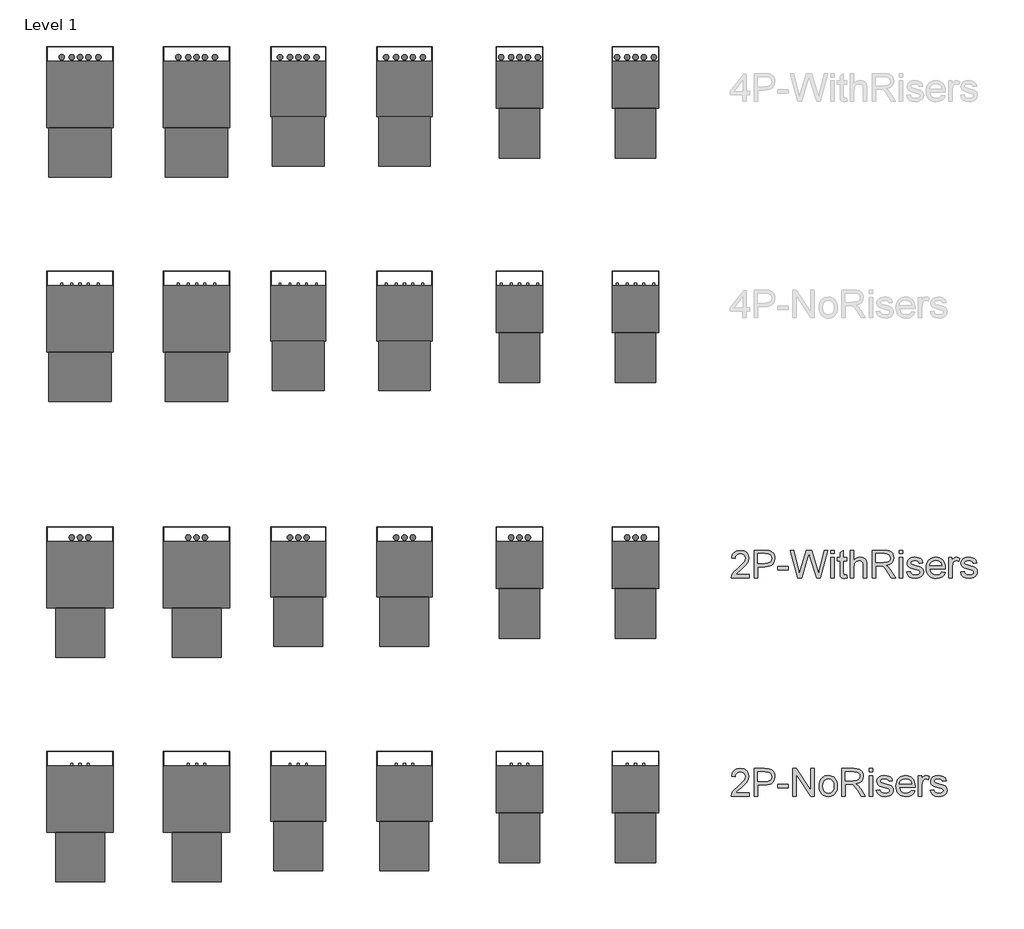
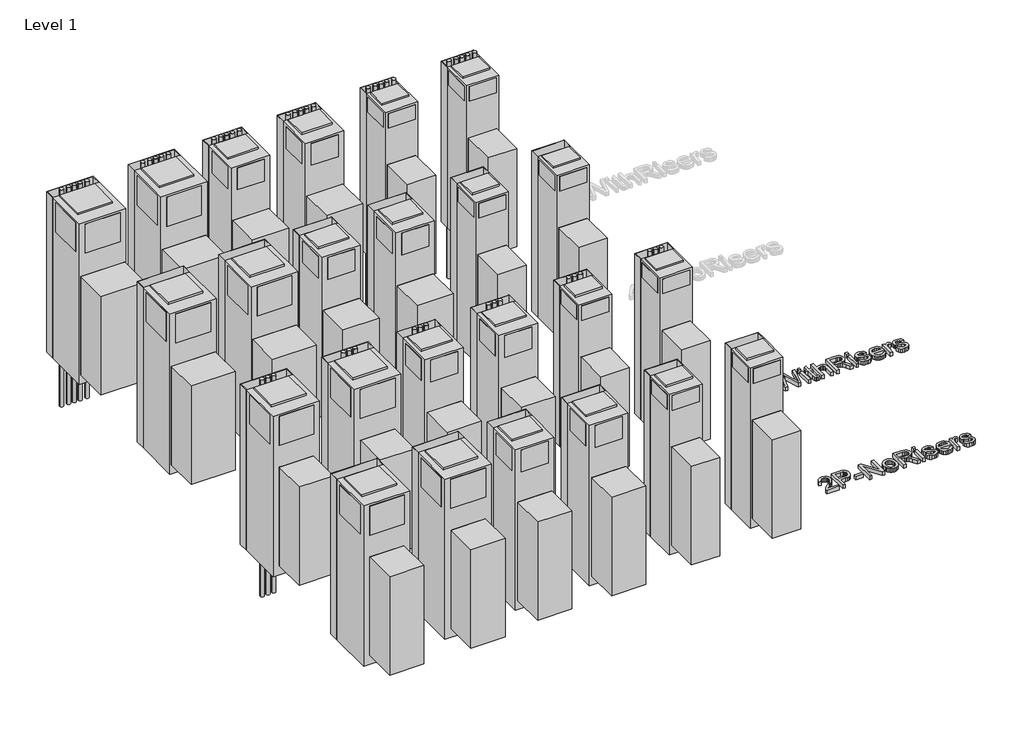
# One storey, part 1 of 2: 26 proxies.
"""IFC4 building model written with IfcOpenShell, lengths in millimetres."""

from ifc_helpers import new_model, si_unit, origin, origin_with_axes, place, context, project, spatial, polyline, outline, extrude, transform, mapped, element, save
from components import mechanical_equipment_0a6d9aea, mechanical_equipment_737f0095, mechanical_equipment_a232e287, mechanical_equipment_c9fd5dd9, mechanical_equipment_90048839, mechanical_equipment_c5b8748d, mechanical_equipment_c428dfaa, mechanical_equipment_3314fadd, mechanical_equipment_59581eee, mechanical_equipment_78186132, mechanical_equipment_7b8174d6, mechanical_equipment_072f10d4

model = new_model("IFC4")

# Units and contexts
model_context = context("Model", 3, world=origin())
ifc_project = project(units=[si_unit("LENGTHUNIT", "METRE", prefix="MILLI")], contexts=[model_context])

# Site, building, storey
site = spatial("IfcSite", under=ifc_project)
building = spatial("IfcBuilding", under=site)
storey = spatial("IfcBuildingStorey", under=building, Name="Level 1", Elevation=0.0)

# Proxies
placement = place(None, origin())
mechanical_equipment_shape = mechanical_equipment_0a6d9aea(model_context)
element("IfcBuildingElementProxy", 1, Name="Exposed_Modular_Fan_Coil_Unit_-_42SHA_-_CARRIER_-_2-Pipe_Cool-EHeat_-_NoRisers_2022 : Size 03 - 277v/60Hz/1Ph - 4 Row 3.0kW", ObjectType="Exposed_Modular_Fan_Coil_Unit_-_42SHA_-_CARRIER_-_2-Pipe_Cool-EHeat_-_NoRisers_2022 : Size 03 - 277v/60Hz/1Ph - 4 Row 3.0kW", at=placement, inside=storey, context=model_context, shape_type="MappedRepresentation", body=[
    mapped(mechanical_equipment_shape, transform((-16233.2031689, -4417.7817828, 0.0), x_axis=(1.0, 0.0, 0.0), y_axis=(0.0, 1.0, 0.0), z_axis=(0.0, 0.0, 1.0))),
])
element("IfcBuildingElementProxy", 2, Name="Exposed_Modular_Fan_Coil_Unit_-_42SHA_-_CARRIER_-_2-Pipe_Cool-EHeat_-_NoRisers_2022 : Size 04 - 277v/60Hz/1Ph - 4 Row 4.0kW", ObjectType="Exposed_Modular_Fan_Coil_Unit_-_42SHA_-_CARRIER_-_2-Pipe_Cool-EHeat_-_NoRisers_2022 : Size 04 - 277v/60Hz/1Ph - 4 Row 4.0kW", at=placement, inside=storey, context=model_context, shape_type="MappedRepresentation", body=[
    mapped(mechanical_equipment_shape, transform((-17299.7341351, -4417.7817828, 0.0), x_axis=(1.0, 0.0, 0.0), y_axis=(0.0, 1.0, 0.0), z_axis=(0.0, 0.0, 1.0))),
])
mechanical_equipment_2_shape = mechanical_equipment_737f0095(model_context)
element("IfcBuildingElementProxy", 3, Name="Exposed_Modular_Fan_Coil_Unit_-_42SHA_-_CARRIER_-_2-Pipe_Cool-EHeat_-_NoRisers_2022 : Size 06 - 277v/60Hz/1Ph - 4 Row 6.0kW", ObjectType="Exposed_Modular_Fan_Coil_Unit_-_42SHA_-_CARRIER_-_2-Pipe_Cool-EHeat_-_NoRisers_2022 : Size 06 - 277v/60Hz/1Ph - 4 Row 6.0kW", at=placement, inside=storey, context=model_context, shape_type="MappedRepresentation", body=[
    mapped(mechanical_equipment_2_shape, transform((-18395.6995373, -4417.7817828, 0.0), x_axis=(1.0, 0.0, 0.0), y_axis=(0.0, 1.0, 0.0), z_axis=(0.0, 0.0, 1.0))),
])
element("IfcBuildingElementProxy", 4, Name="Exposed_Modular_Fan_Coil_Unit_-_42SHA_-_CARRIER_-_2-Pipe_Cool-EHeat_-_NoRisers_2022 : Size 08 - 277v/60Hz/1Ph - 4 Row 8.0kW", ObjectType="Exposed_Modular_Fan_Coil_Unit_-_42SHA_-_CARRIER_-_2-Pipe_Cool-EHeat_-_NoRisers_2022 : Size 08 - 277v/60Hz/1Ph - 4 Row 8.0kW", at=placement, inside=storey, context=model_context, shape_type="MappedRepresentation", body=[
    mapped(mechanical_equipment_2_shape, transform((-19372.1906777, -4417.7817828, 0.0), x_axis=(1.0, 0.0, 0.0), y_axis=(0.0, 1.0, 0.0), z_axis=(0.0, 0.0, 1.0))),
])
mechanical_equipment_3_shape = mechanical_equipment_a232e287(model_context)
element("IfcBuildingElementProxy", 5, Name="Exposed_Modular_Fan_Coil_Unit_-_42SHA_-_CARRIER_-_2-Pipe_Cool-EHeat_-_NoRisers_2022 : Size 10 - 277v/60Hz/1Ph - 4 Row 8.0kW", ObjectType="Exposed_Modular_Fan_Coil_Unit_-_42SHA_-_CARRIER_-_2-Pipe_Cool-EHeat_-_NoRisers_2022 : Size 10 - 277v/60Hz/1Ph - 4 Row 8.0kW", at=placement, inside=storey, context=model_context, shape_type="MappedRepresentation", body=[
    mapped(mechanical_equipment_3_shape, transform((-20358.7946873, -4417.7817828, 0.0), x_axis=(1.0, 0.0, 0.0), y_axis=(0.0, 1.0, 0.0), z_axis=(0.0, 0.0, 1.0))),
])
element("IfcBuildingElementProxy", 6, Name="Exposed_Modular_Fan_Coil_Unit_-_42SHA_-_CARRIER_-_2-Pipe_Cool-EHeat_-_NoRisers_2022 : Size 12 - 277v/60Hz/1Ph - 4 Row 8.0kW", ObjectType="Exposed_Modular_Fan_Coil_Unit_-_42SHA_-_CARRIER_-_2-Pipe_Cool-EHeat_-_NoRisers_2022 : Size 12 - 277v/60Hz/1Ph - 4 Row 8.0kW", at=placement, inside=storey, context=model_context, shape_type="MappedRepresentation", body=[
    mapped(mechanical_equipment_3_shape, transform((-21430.2224664, -4417.7817828, 0.0), x_axis=(1.0, 0.0, 0.0), y_axis=(0.0, 1.0, 0.0), z_axis=(0.0, 0.0, 1.0))),
])
mechanical_equipment_4_shape = mechanical_equipment_c9fd5dd9(model_context)
element("IfcBuildingElementProxy", 7, Name="Exposed_Modular_Fan_Coil_Unit_-_42SHA_-_CARRIER_-_4-Pipe_-_NoRisers_2022 : Size 03 - 277v/60Hz/1Ph - 4/1 Coil", ObjectType="Exposed_Modular_Fan_Coil_Unit_-_42SHA_-_CARRIER_-_4-Pipe_-_NoRisers_2022 : Size 03 - 277v/60Hz/1Ph - 4/1 Coil", at=placement, inside=storey, context=model_context, shape_type="MappedRepresentation", body=[
    mapped(mechanical_equipment_4_shape, transform((-16233.2031689, 1.8182172, 0.0), x_axis=(1.0, 0.0, 0.0), y_axis=(0.0, 1.0, 0.0), z_axis=(0.0, 0.0, 1.0))),
])
element("IfcBuildingElementProxy", 8, Name="Exposed_Modular_Fan_Coil_Unit_-_42SHA_-_CARRIER_-_4-Pipe_-_NoRisers_2022 : Size 04 - 277v/60Hz/1Ph - 4/1 Coil", ObjectType="Exposed_Modular_Fan_Coil_Unit_-_42SHA_-_CARRIER_-_4-Pipe_-_NoRisers_2022 : Size 04 - 277v/60Hz/1Ph - 4/1 Coil", at=placement, inside=storey, context=model_context, shape_type="MappedRepresentation", body=[
    mapped(mechanical_equipment_4_shape, transform((-17299.7341351, 1.8182172, 0.0), x_axis=(1.0, 0.0, 0.0), y_axis=(0.0, 1.0, 0.0), z_axis=(0.0, 0.0, 1.0))),
])
mechanical_equipment_5_shape = mechanical_equipment_90048839(model_context)
element("IfcBuildingElementProxy", 9, Name="Exposed_Modular_Fan_Coil_Unit_-_42SHA_-_CARRIER_-_4-Pipe_-_NoRisers_2022 : Size 06 - 277v/60Hz/1Ph - 4/1 Coil", ObjectType="Exposed_Modular_Fan_Coil_Unit_-_42SHA_-_CARRIER_-_4-Pipe_-_NoRisers_2022 : Size 06 - 277v/60Hz/1Ph - 4/1 Coil", at=placement, inside=storey, context=model_context, shape_type="MappedRepresentation", body=[
    mapped(mechanical_equipment_5_shape, transform((-18395.6995373, 1.8182172, 0.0), x_axis=(1.0, 0.0, 0.0), y_axis=(0.0, 1.0, 0.0), z_axis=(0.0, 0.0, 1.0))),
])
element("IfcBuildingElementProxy", 10, Name="Exposed_Modular_Fan_Coil_Unit_-_42SHA_-_CARRIER_-_4-Pipe_-_NoRisers_2022 : Size 08 - 277v/60Hz/1Ph - 4/1 Coil", ObjectType="Exposed_Modular_Fan_Coil_Unit_-_42SHA_-_CARRIER_-_4-Pipe_-_NoRisers_2022 : Size 08 - 277v/60Hz/1Ph - 4/1 Coil", at=placement, inside=storey, context=model_context, shape_type="MappedRepresentation", body=[
    mapped(mechanical_equipment_5_shape, transform((-19372.1906777, 1.8182172, 0.0), x_axis=(1.0, 0.0, 0.0), y_axis=(0.0, 1.0, 0.0), z_axis=(0.0, 0.0, 1.0))),
])
mechanical_equipment_6_shape = mechanical_equipment_c5b8748d(model_context)
element("IfcBuildingElementProxy", 11, Name="Exposed_Modular_Fan_Coil_Unit_-_42SHA_-_CARRIER_-_4-Pipe_-_NoRisers_2022 : Size 10 - 277v/60Hz/1Ph - 4/1 Coil", ObjectType="Exposed_Modular_Fan_Coil_Unit_-_42SHA_-_CARRIER_-_4-Pipe_-_NoRisers_2022 : Size 10 - 277v/60Hz/1Ph - 4/1 Coil", at=placement, inside=storey, context=model_context, shape_type="MappedRepresentation", body=[
    mapped(mechanical_equipment_6_shape, transform((-20358.7946873, 1.8182172, 0.0), x_axis=(1.0, 0.0, 0.0), y_axis=(0.0, 1.0, 0.0), z_axis=(0.0, 0.0, 1.0))),
])
element("IfcBuildingElementProxy", 12, Name="Exposed_Modular_Fan_Coil_Unit_-_42SHA_-_CARRIER_-_4-Pipe_-_NoRisers_2022 : Size 12 - 277v/60Hz/1Ph - 4/1 Coil", ObjectType="Exposed_Modular_Fan_Coil_Unit_-_42SHA_-_CARRIER_-_4-Pipe_-_NoRisers_2022 : Size 12 - 277v/60Hz/1Ph - 4/1 Coil", at=placement, inside=storey, context=model_context, shape_type="MappedRepresentation", body=[
    mapped(mechanical_equipment_6_shape, transform((-21430.2224664, 1.8182172, 0.0), x_axis=(1.0, 0.0, 0.0), y_axis=(0.0, 1.0, 0.0), z_axis=(0.0, 0.0, 1.0))),
])
mechanical_equipment_7_shape = mechanical_equipment_c428dfaa(model_context)
element("IfcBuildingElementProxy", 13, Name="Exposed_Modular_Fan_Coil_Unit_-_42SHA_-_CARRIER_-_2-Pipe_Cool-EHeat_-_WithRisers_2022 : Size 03 - 277v/60Hz/1Ph - 4 Row 3.0kW", ObjectType="Exposed_Modular_Fan_Coil_Unit_-_42SHA_-_CARRIER_-_2-Pipe_Cool-EHeat_-_WithRisers_2022 : Size 03 - 277v/60Hz/1Ph - 4 Row 3.0kW", at=placement, inside=storey, context=model_context, shape_type="MappedRepresentation", body=[
    mapped(mechanical_equipment_7_shape, transform((-16233.2031689, -2353.1983169, 0.0), x_axis=(1.0, 0.0, 0.0), y_axis=(0.0, 1.0, 0.0), z_axis=(0.0, 0.0, 1.0))),
])
element("IfcBuildingElementProxy", 14, Name="Exposed_Modular_Fan_Coil_Unit_-_42SHA_-_CARRIER_-_2-Pipe_Cool-EHeat_-_WithRisers_2022 : Size 04 - 277v/60Hz/1Ph - 4 Row 4.0kW", ObjectType="Exposed_Modular_Fan_Coil_Unit_-_42SHA_-_CARRIER_-_2-Pipe_Cool-EHeat_-_WithRisers_2022 : Size 04 - 277v/60Hz/1Ph - 4 Row 4.0kW", at=placement, inside=storey, context=model_context, shape_type="MappedRepresentation", body=[
    mapped(mechanical_equipment_7_shape, transform((-17299.7341351, -2353.1983169, 0.0), x_axis=(1.0, 0.0, 0.0), y_axis=(0.0, 1.0, 0.0), z_axis=(0.0, 0.0, 1.0))),
])
mechanical_equipment_8_shape = mechanical_equipment_3314fadd(model_context)
element("IfcBuildingElementProxy", 15, Name="Exposed_Modular_Fan_Coil_Unit_-_42SHA_-_CARRIER_-_2-Pipe_Cool-EHeat_-_WithRisers_2022 : Size 06 - 277v/60Hz/1Ph - 4 Row 6.0kW", ObjectType="Exposed_Modular_Fan_Coil_Unit_-_42SHA_-_CARRIER_-_2-Pipe_Cool-EHeat_-_WithRisers_2022 : Size 06 - 277v/60Hz/1Ph - 4 Row 6.0kW", at=placement, inside=storey, context=model_context, shape_type="MappedRepresentation", body=[
    mapped(mechanical_equipment_8_shape, transform((-18395.6995373, -2353.1983169, 0.0), x_axis=(1.0, 0.0, 0.0), y_axis=(0.0, 1.0, 0.0), z_axis=(0.0, 0.0, 1.0))),
])
element("IfcBuildingElementProxy", 16, Name="Exposed_Modular_Fan_Coil_Unit_-_42SHA_-_CARRIER_-_2-Pipe_Cool-EHeat_-_WithRisers_2022 : Size 08 - 277v/60Hz/1Ph - 4 Row 8.0kW", ObjectType="Exposed_Modular_Fan_Coil_Unit_-_42SHA_-_CARRIER_-_2-Pipe_Cool-EHeat_-_WithRisers_2022 : Size 08 - 277v/60Hz/1Ph - 4 Row 8.0kW", at=placement, inside=storey, context=model_context, shape_type="MappedRepresentation", body=[
    mapped(mechanical_equipment_8_shape, transform((-19372.1906777, -2353.1983169, 0.0), x_axis=(1.0, 0.0, 0.0), y_axis=(0.0, 1.0, 0.0), z_axis=(0.0, 0.0, 1.0))),
])
mechanical_equipment_9_shape = mechanical_equipment_59581eee(model_context)
element("IfcBuildingElementProxy", 17, Name="Exposed_Modular_Fan_Coil_Unit_-_42SHA_-_CARRIER_-_2-Pipe_Cool-EHeat_-_WithRisers_2022 : Size 10 - 277v/60Hz/1Ph - 4 Row 8.0kW", ObjectType="Exposed_Modular_Fan_Coil_Unit_-_42SHA_-_CARRIER_-_2-Pipe_Cool-EHeat_-_WithRisers_2022 : Size 10 - 277v/60Hz/1Ph - 4 Row 8.0kW", at=placement, inside=storey, context=model_context, shape_type="MappedRepresentation", body=[
    mapped(mechanical_equipment_9_shape, transform((-20358.7946873, -2353.1983169, 0.0), x_axis=(1.0, 0.0, 0.0), y_axis=(0.0, 1.0, 0.0), z_axis=(0.0, 0.0, 1.0))),
])
element("IfcBuildingElementProxy", 18, Name="Exposed_Modular_Fan_Coil_Unit_-_42SHA_-_CARRIER_-_2-Pipe_Cool-EHeat_-_WithRisers_2022 : Size 12 - 277v/60Hz/1Ph - 4 Row 8.0kW", ObjectType="Exposed_Modular_Fan_Coil_Unit_-_42SHA_-_CARRIER_-_2-Pipe_Cool-EHeat_-_WithRisers_2022 : Size 12 - 277v/60Hz/1Ph - 4 Row 8.0kW", at=placement, inside=storey, context=model_context, shape_type="MappedRepresentation", body=[
    mapped(mechanical_equipment_9_shape, transform((-21430.2224664, -2353.1983169, 0.0), x_axis=(1.0, 0.0, 0.0), y_axis=(0.0, 1.0, 0.0), z_axis=(0.0, 0.0, 1.0))),
])
mechanical_equipment_10_shape = mechanical_equipment_78186132(model_context)
element("IfcBuildingElementProxy", 19, Name="Exposed_Modular_Fan_Coil_Unit_-_42SHA_-_CARRIER_-_4-Pipe_-_WithRisers_2022 : Size 03 - 277v/60Hz/1Ph - 4/1 Coil", ObjectType="Exposed_Modular_Fan_Coil_Unit_-_42SHA_-_CARRIER_-_4-Pipe_-_WithRisers_2022 : Size 03 - 277v/60Hz/1Ph - 4/1 Coil", at=placement, inside=storey, context=model_context, shape_type="MappedRepresentation", body=[
    mapped(mechanical_equipment_10_shape, transform((-16233.2031689, 2066.4016831, 0.0), x_axis=(1.0, 0.0, 0.0), y_axis=(0.0, 1.0, 0.0), z_axis=(0.0, 0.0, 1.0))),
])
element("IfcBuildingElementProxy", 20, Name="Exposed_Modular_Fan_Coil_Unit_-_42SHA_-_CARRIER_-_4-Pipe_-_WithRisers_2022 : Size 04 - 277v/60Hz/1Ph - 4/1 Coil", ObjectType="Exposed_Modular_Fan_Coil_Unit_-_42SHA_-_CARRIER_-_4-Pipe_-_WithRisers_2022 : Size 04 - 277v/60Hz/1Ph - 4/1 Coil", at=placement, inside=storey, context=model_context, shape_type="MappedRepresentation", body=[
    mapped(mechanical_equipment_10_shape, transform((-17299.7341351, 2066.4016831, 0.0), x_axis=(1.0, 0.0, 0.0), y_axis=(0.0, 1.0, 0.0), z_axis=(0.0, 0.0, 1.0))),
])
mechanical_equipment_11_shape = mechanical_equipment_7b8174d6(model_context)
element("IfcBuildingElementProxy", 21, Name="Exposed_Modular_Fan_Coil_Unit_-_42SHA_-_CARRIER_-_4-Pipe_-_WithRisers_2022 : Size 06 - 277v/60Hz/1Ph - 4/1 Coil", ObjectType="Exposed_Modular_Fan_Coil_Unit_-_42SHA_-_CARRIER_-_4-Pipe_-_WithRisers_2022 : Size 06 - 277v/60Hz/1Ph - 4/1 Coil", at=placement, inside=storey, context=model_context, shape_type="MappedRepresentation", body=[
    mapped(mechanical_equipment_11_shape, transform((-18395.6995373, 2066.4016831, 0.0), x_axis=(1.0, 0.0, 0.0), y_axis=(0.0, 1.0, 0.0), z_axis=(0.0, 0.0, 1.0))),
])
element("IfcBuildingElementProxy", 22, Name="Exposed_Modular_Fan_Coil_Unit_-_42SHA_-_CARRIER_-_4-Pipe_-_WithRisers_2022 : Size 08 - 277v/60Hz/1Ph - 4/1 Coil", ObjectType="Exposed_Modular_Fan_Coil_Unit_-_42SHA_-_CARRIER_-_4-Pipe_-_WithRisers_2022 : Size 08 - 277v/60Hz/1Ph - 4/1 Coil", at=placement, inside=storey, context=model_context, shape_type="MappedRepresentation", body=[
    mapped(mechanical_equipment_11_shape, transform((-19372.1906777, 2066.4016831, 0.0), x_axis=(1.0, 0.0, 0.0), y_axis=(0.0, 1.0, 0.0), z_axis=(0.0, 0.0, 1.0))),
])
mechanical_equipment_12_shape = mechanical_equipment_072f10d4(model_context)
element("IfcBuildingElementProxy", 23, Name="Exposed_Modular_Fan_Coil_Unit_-_42SHA_-_CARRIER_-_4-Pipe_-_WithRisers_2022 : Size 10 - 277v/60Hz/1Ph - 4/1 Coil", ObjectType="Exposed_Modular_Fan_Coil_Unit_-_42SHA_-_CARRIER_-_4-Pipe_-_WithRisers_2022 : Size 10 - 277v/60Hz/1Ph - 4/1 Coil", at=placement, inside=storey, context=model_context, shape_type="MappedRepresentation", body=[
    mapped(mechanical_equipment_12_shape, transform((-20358.7946873, 2066.4016831, 0.0), x_axis=(1.0, 0.0, 0.0), y_axis=(0.0, 1.0, 0.0), z_axis=(0.0, 0.0, 1.0))),
])
element("IfcBuildingElementProxy", 24, Name="Exposed_Modular_Fan_Coil_Unit_-_42SHA_-_CARRIER_-_4-Pipe_-_WithRisers_2022 : Size 12 - 277v/60Hz/1Ph - 4/1 Coil", ObjectType="Exposed_Modular_Fan_Coil_Unit_-_42SHA_-_CARRIER_-_4-Pipe_-_WithRisers_2022 : Size 12 - 277v/60Hz/1Ph - 4/1 Coil", at=placement, inside=storey, context=model_context, shape_type="MappedRepresentation", body=[
    mapped(mechanical_equipment_12_shape, transform((-21430.2224664, 2066.4016831, 0.0), x_axis=(1.0, 0.0, 0.0), y_axis=(0.0, 1.0, 0.0), z_axis=(0.0, 0.0, 1.0))),
])
element("IfcBuildingElementProxy", 25, Name="24\" Arial", ObjectType="24\" Arial", at=placement, inside=storey, context=model_context, shape_type="SweptSolid", body=[
    extrude(outline(polyline([(-14817.2694928, -4418.7667222), (-14817.2694928, -4450.6616007), (-14984.7176048, -4450.6616007), (-14981.2913971, -4428.671577), (-14973.4266932, -4411.4860309), (-14961.9177502, -4394.814416), (-14921.9868575, -4357.8425207), (-14887.5690443, -4327.2714043), (-14866.9183563, -4304.7051549), (-14856.5930124, -4286.3905176), (-14853.1512311, -4268.5742378), (-14856.3983415, -4252.6034381), (-14866.1396728, -4239.3268835), (-14881.1137576, -4230.3798094), (-14900.0591285, -4227.3974514), (-14919.9544934, -4230.3097279), (-14935.411362, -4239.0465574), (-14945.3862983, -4252.9226983), (-14948.8358665, -4271.2529093), (-14980.730745, -4267.2660495), (-14972.9984172, -4236.414607), (-14956.2800813, -4213.8795048), (-14931.4478627, -4200.0968059), (-14899.373887, -4195.5025729), (-14867.0663062, -4200.610737), (-14842.2808086, -4215.9352294), (-14826.5124666, -4238.828526), (-14821.2563526, -4266.6431026), (-14826.9251689, -4296.8871719), (-14845.7693109, -4328.1591036), (-14891.462462, -4371.8588248), (-14928.1540312, -4402.5389569), (-14942.5441033, -4418.7667222), (-14817.2694928, -4418.7667222)])), origin_with_axes(), (0.0, 0.0, 1.0), 50.8),
    extrude(outline(polyline([(-14773.4140349, -4450.6616007), (-14773.4140349, -4195.5025729), (-14678.8507038, -4195.5025729), (-14640.7263569, -4197.9320656), (-14623.7276948, -4202.4717907), (-14609.7347513, -4209.8614977), (-14598.4672003, -4220.4360204), (-14589.6447156, -4234.5301927), (-14583.9447519, -4251.1550867), (-14582.044764, -4269.321774), (-14587.1762887, -4299.394533), (-14602.5708626, -4324.4525698), (-14614.89937, -4334.3184905), (-14631.3587937, -4341.3655767), (-14651.9491336, -4345.5938284), (-14676.6703898, -4347.0032456), (-14741.5191564, -4347.0032456), (-14741.5191564, -4450.6616007), (-14773.4140349, -4450.6616007)]), holes=[polyline([(-14741.5191564, -4315.1083672), (-14674.8015493, -4315.1083672), (-14646.5197625, -4312.180517), (-14627.8313572, -4303.3969665), (-14617.4125712, -4289.3027941), (-14613.9396425, -4270.4430784), (-14615.9875803, -4256.1153009), (-14622.1313935, -4244.0301321), (-14631.6079724, -4234.9351082), (-14643.654207, -4229.5777653), (-14675.5490855, -4227.3974514), (-14741.5191564, -4227.3974514), (-14741.5191564, -4315.1083672)])]), origin_with_axes(), (0.0, 0.0, 1.0), 50.8),
    extrude(outline(polyline([(-14558.1236052, -4374.9112643), (-14558.1236052, -4343.0163858), (-14458.45211, -4343.0163858), (-14458.45211, -4374.9112643), (-14558.1236052, -4374.9112643)])), origin_with_axes(), (0.0, 0.0, 1.0), 50.8),
    extrude(outline(polyline([(-14418.5835119, -4450.6616007), (-14418.5835119, -4195.5025729), (-14384.4460248, -4195.5025729), (-14251.1353999, -4397.6488242), (-14251.1353999, -4195.5025729), (-14219.2405214, -4195.5025729), (-14219.2405214, -4450.6616007), (-14253.3780085, -4450.6616007), (-14386.6886334, -4248.4530547), (-14386.6886334, -4450.6616007), (-14418.5835119, -4450.6616007)])), origin_with_axes(), (0.0, 0.0, 1.0), 50.8),
    extrude(outline(polyline([(-14175.3850635, -4356.9703952), (-14173.6602794, -4332.7027221), (-14168.4859272, -4311.7911752), (-14159.8620068, -4294.2357544), (-14147.7885183, -4280.0364598), (-14122.2165503, -4264.4783623), (-14091.5987128, -4259.2923298), (-14074.0024112, -4260.8711108), (-14058.0919594, -4265.6074535), (-14043.8673575, -4273.501358), (-14031.3286056, -4284.5528244), (-14021.0947569, -4298.3880845), (-14013.7848651, -4314.6333702), (-14009.3989299, -4333.2886815), (-14007.9369515, -4354.3540184), (-14010.522181, -4386.575944), (-14018.2778692, -4411.104476), (-14030.978198, -4429.4736211), (-14048.3973491, -4443.2173859), (-14069.0869712, -4451.7906918), (-14091.5987128, -4454.6484605), (-14109.4519801, -4453.0755197), (-14125.5103817, -4448.3566973), (-14139.7739178, -4440.4919934), (-14152.2425882, -4429.4814079), (-14162.3674212, -4415.5118249), (-14169.5994447, -4398.7701285), (-14173.9386588, -4379.2563185), (-14175.3850635, -4356.9703952)]), holes=[polyline([(-14143.4901851, -4356.9081005), (-14139.799225, -4385.7738999), (-14128.7263448, -4406.3389326), (-14112.0625167, -4418.6499197), (-14091.5987128, -4422.753582), (-14071.228351, -4418.6265592), (-14054.5956702, -4406.2454906), (-14043.5227901, -4385.4079186), (-14039.83183, -4355.9113855), (-14043.5461506, -4327.8865643), (-14054.6891123, -4307.6018577), (-14071.3451535, -4295.2908707), (-14091.5987128, -4291.1872083), (-14112.0625167, -4295.275297), (-14128.7263448, -4307.539563), (-14139.799225, -4328.0578747), (-14143.4901851, -4356.9081005)])]), origin_with_axes(), (0.0, 0.0, 1.0), 50.8),
    extrude(outline(polyline([(-13968.0683535, -4450.6616007), (-13968.0683535, -4195.5025729), (-13858.1182353, -4195.5025729), (-13828.5671943, -4197.2234636), (-13807.0677413, -4202.3861355), (-13791.3539071, -4211.9172223), (-13779.1597227, -4226.7433572), (-13771.3339529, -4245.1280759), (-13768.725363, -4265.3349142), (-13773.0470567, -4290.4708194), (-13786.012138, -4311.3083914), (-13808.0099484, -4326.5861628), (-13839.4298299, -4335.0426662), (-13821.3020767, -4348.6852021), (-13795.4497827, -4381.5145009), (-13752.9025131, -4450.6616007), (-13789.9678504, -4450.6616007), (-13823.1709173, -4397.7734135), (-13847.1543708, -4362.7638008), (-13864.005083, -4346.2245621), (-13879.1738386, -4340.1508303), (-13897.6753599, -4339.029526), (-13936.173475, -4339.029526), (-13936.173475, -4450.6616007), (-13968.0683535, -4450.6616007)]), holes=[polyline([(-13936.173475, -4307.1346475), (-13864.7837665, -4307.1346475), (-13828.3725234, -4302.6182829), (-13816.3963703, -4296.7470089), (-13807.6906882, -4288.1659161), (-13802.3878531, -4277.7860643), (-13800.6202415, -4266.5185132), (-13803.9919413, -4250.9604158), (-13814.1070407, -4238.4236105), (-13831.5106182, -4230.1539912), (-13856.7477522, -4227.3974514), (-13936.173475, -4227.3974514), (-13936.173475, -4307.1346475)])]), origin_with_axes(), (0.0, 0.0, 1.0), 50.8),
    extrude(outline(polyline([(-13716.8961855, -4227.3974514), (-13716.8961855, -4195.5025729), (-13685.001307, -4195.5025729), (-13685.001307, -4227.3974514), (-13716.8961855, -4227.3974514)])), origin_with_axes(), (0.0, 0.0, 1.0), 50.8),
    extrude(outline(polyline([(-13716.8961855, -4450.6616007), (-13716.8961855, -4263.2791896), (-13685.001307, -4263.2791896), (-13685.001307, -4450.6616007), (-13716.8961855, -4450.6616007)])), origin_with_axes(), (0.0, 0.0, 1.0), 50.8),
    extrude(outline(polyline([(-13649.1195687, -4394.8455633), (-13617.2246903, -4390.8587035), (-13612.1943945, -4404.5012394), (-13602.46085, -4414.5306837), (-13587.9617622, -4420.6978574), (-13568.6348363, -4422.753582), (-13549.5415155, -4420.8691678), (-13536.117011, -4415.2159252), (-13528.1744387, -4407.0241742), (-13525.5269146, -4397.5242348), (-13528.1900124, -4389.3947785), (-13536.1793057, -4383.1964573), (-13569.0086044, -4374.1014334), (-13617.0378062, -4358.4966149), (-13629.1930565, -4350.6552715), (-13637.9999675, -4340.2754197), (-13643.3495236, -4328.0189405), (-13645.1327089, -4314.547715), (-13639.4015979, -4290.7822929), (-13623.7656321, -4272.6233923), (-13603.4887123, -4263.1857476), (-13576.0479038, -4259.2923298), (-13555.2882002, -4260.8574838), (-13537.2383153, -4265.5529456), (-13522.7236538, -4272.9192921), (-13512.5696203, -4282.4970998), (-13505.8417943, -4294.9949709), (-13501.6057558, -4311.1215074), (-13533.5006343, -4315.1083672), (-13537.5264283, -4305.0711361), (-13545.492361, -4297.5101188), (-13557.476301, -4292.7679359), (-13573.5561164, -4291.1872083), (-13591.8707537, -4292.6978544), (-13604.0805118, -4297.2297927), (-13610.9485008, -4303.7707346), (-13613.2378304, -4311.3083914), (-13609.4378547, -4320.5902994), (-13597.5395699, -4327.6295988), (-13570.0676141, -4334.4197194), (-13523.2531587, -4349.4327383), (-13510.8876638, -4356.6122007), (-13501.5123138, -4366.4391872), (-13495.6021056, -4378.9448451), (-13493.6320362, -4394.1603218), (-13495.9447263, -4409.8897297), (-13502.8827968, -4424.6847172), (-13514.1814952, -4437.385046), (-13529.5760691, -4446.8304776), (-13548.1710325, -4452.6939648), (-13569.0708991, -4454.6484605), (-13601.23053, -4450.8796321), (-13624.7000524, -4439.5731468), (-13640.3671656, -4420.8535941), (-13649.1195687, -4394.8455633)])), origin_with_axes(), (0.0, 0.0, 1.0), 50.8),
    extrude(outline(polyline([(-13326.5576923, -4394.8455633), (-13295.2857607, -4398.8324232), (-13306.5533117, -4422.3953876), (-13324.5331151, -4440.0092096), (-13348.8202552, -4450.9886478), (-13379.0098167, -4454.6484605), (-13398.8000593, -4453.0696796), (-13416.4333484, -4448.3333368), (-13431.9096841, -4440.4394323), (-13445.2290663, -4429.3879659), (-13455.9398586, -4415.4865177), (-13463.5904246, -4399.0426677), (-13468.1807641, -4380.0564159), (-13469.7108773, -4358.5277623), (-13468.1651905, -4336.2690928), (-13463.5281299, -4316.6501606), (-13455.7996956, -4299.6709657), (-13444.9798876, -4285.331508), (-13431.6955461, -4273.9393675), (-13416.5735114, -4265.8021244), (-13399.6137836, -4260.9197785), (-13380.8163625, -4259.2923298), (-13362.6243679, -4260.9158851), (-13346.1727311, -4265.7865507), (-13331.461452, -4273.9043268), (-13318.4905307, -4285.2692133), (-13307.902381, -4299.5775236), (-13300.339417, -4316.5255712), (-13295.8016385, -4336.1133561), (-13294.2890457, -4358.3408782), (-13294.4759298, -4366.9375447), (-13437.8159988, -4366.9375447), (-13432.2951324, -4390.8119825), (-13419.4702143, -4408.3635099), (-13400.9609061, -4419.156064), (-13378.3868698, -4422.753582), (-13361.4115683, -4421.0871992), (-13347.1149382, -4416.0880508), (-13335.4969795, -4407.4446633), (-13326.5576923, -4394.8455633)]), holes=[polyline([(-13437.8159988, -4335.0426662), (-13326.1839242, -4335.0426662), (-13330.4978311, -4318.1919541), (-13338.9543345, -4306.1379326), (-13357.5492978, -4294.9248894), (-13380.9409519, -4291.1872083), (-13402.4404049, -4294.1695663), (-13420.2177505, -4303.1166404), (-13432.5754585, -4317.0628629), (-13437.8159988, -4335.0426662)])]), origin_with_axes(), (0.0, 0.0, 1.0), 50.8),
    extrude(outline(polyline([(-13262.3941672, -4450.6616007), (-13262.3941672, -4263.2791896), (-13234.4861486, -4263.2791896), (-13234.4861486, -4291.0003243), (-13224.1763783, -4274.9282957), (-13214.6764389, -4265.4595036), (-13205.1453522, -4260.8341233), (-13194.7421399, -4259.2923298), (-13178.8569953, -4261.7529699), (-13162.722672, -4269.13489), (-13173.3750631, -4297.7281502), (-13195.8011495, -4291.1872083), (-13205.3244494, -4292.7601491), (-13213.8354607, -4297.4789714), (-13220.7112365, -4304.9854809), (-13225.32883, -4314.9214831), (-13230.4992888, -4352.1737045), (-13230.4992888, -4450.6616007), (-13262.3941672, -4450.6616007)])), origin_with_axes(), (0.0, 0.0, 1.0), 50.8),
    extrude(outline(polyline([(-13154.7489524, -4394.8455633), (-13122.8540739, -4390.8587035), (-13117.8237782, -4404.5012394), (-13108.0902337, -4414.5306837), (-13093.5911459, -4420.6978574), (-13074.26422, -4422.753582), (-13055.1708992, -4420.8691678), (-13041.7463947, -4415.2159252), (-13033.8038224, -4407.0241742), (-13031.1562983, -4397.5242348), (-13033.8193961, -4389.3947785), (-13041.8086894, -4383.1964573), (-13074.6379881, -4374.1014334), (-13122.6671899, -4358.4966149), (-13134.8224402, -4350.6552715), (-13143.6293512, -4340.2754197), (-13148.9789073, -4328.0189405), (-13150.7620926, -4314.547715), (-13145.0309816, -4290.7822929), (-13129.3950158, -4272.6233923), (-13109.118096, -4263.1857476), (-13081.6772875, -4259.2923298), (-13060.9175839, -4260.8574838), (-13042.867699, -4265.5529456), (-13028.3530375, -4272.9192921), (-13018.1990039, -4282.4970998), (-13011.471178, -4294.9949709), (-13007.2351395, -4311.1215074), (-13039.1300179, -4315.1083672), (-13043.1558119, -4305.0711361), (-13051.1217447, -4297.5101188), (-13063.1056846, -4292.7679359), (-13079.1855001, -4291.1872083), (-13097.5001373, -4292.6978544), (-13109.7098955, -4297.2297927), (-13116.5778845, -4303.7707346), (-13118.8672141, -4311.3083914), (-13115.0672384, -4320.5902994), (-13103.1689536, -4327.6295988), (-13075.6969978, -4334.4197194), (-13028.8825423, -4349.4327383), (-13016.5170475, -4356.6122007), (-13007.1416974, -4366.4391872), (-13001.2314892, -4378.9448451), (-12999.2614199, -4394.1603218), (-13001.57411, -4409.8897297), (-13008.5121805, -4424.6847172), (-13019.8108789, -4437.385046), (-13035.2054528, -4446.8304776), (-13053.8004161, -4452.6939648), (-13074.7002828, -4454.6484605), (-13106.8599137, -4450.8796321), (-13130.3294361, -4439.5731468), (-13145.9965492, -4420.8535941), (-13154.7489524, -4394.8455633)])), origin_with_axes(), (0.0, 0.0, 1.0), 50.8),
])
element("IfcBuildingElementProxy", 26, Name="24\" Arial", ObjectType="24\" Arial", at=placement, inside=storey, context=model_context, shape_type="SweptSolid", body=[
    extrude(outline(polyline([(-14817.2694928, -2410.4022997), (-14817.2694928, -2442.2971782), (-14984.7176048, -2442.2971782), (-14981.2913971, -2420.3071545), (-14973.4266932, -2403.1216084), (-14961.9177502, -2386.4499935), (-14921.9868575, -2349.4780982), (-14887.5690443, -2318.9069818), (-14866.9183563, -2296.3407323), (-14856.5930124, -2278.0260951), (-14853.1512311, -2260.2098153), (-14856.3983415, -2244.2390156), (-14866.1396728, -2230.9624609), (-14881.1137576, -2222.0153869), (-14900.0591285, -2219.0330288), (-14919.9544934, -2221.9453053), (-14935.411362, -2230.6821348), (-14945.3862983, -2244.5582758), (-14948.8358665, -2262.8884867), (-14980.730745, -2258.9016269), (-14972.9984172, -2228.0501844), (-14956.2800813, -2205.5150823), (-14931.4478627, -2191.7323834), (-14899.373887, -2187.1381504), (-14867.0663062, -2192.2463145), (-14842.2808086, -2207.5708069), (-14826.5124666, -2230.4641035), (-14821.2563526, -2258.2786801), (-14826.9251689, -2288.5227494), (-14845.7693109, -2319.794681), (-14891.462462, -2363.4944022), (-14928.1540312, -2394.1745344), (-14942.5441033, -2410.4022997), (-14817.2694928, -2410.4022997)])), origin_with_axes(), (0.0, 0.0, 1.0), 50.8),
    extrude(outline(polyline([(-14773.4140349, -2442.2971782), (-14773.4140349, -2187.1381504), (-14678.8507038, -2187.1381504), (-14640.7263569, -2189.5676431), (-14623.7276948, -2194.1073682), (-14609.7347513, -2201.4970752), (-14598.4672003, -2212.0715978), (-14589.6447156, -2226.1657702), (-14583.9447519, -2242.7906642), (-14582.044764, -2260.9573515), (-14587.1762887, -2291.0301105), (-14602.5708626, -2316.0881473), (-14614.89937, -2325.954068), (-14631.3587937, -2333.0011542), (-14651.9491336, -2337.2294059), (-14676.6703898, -2338.6388231), (-14741.5191564, -2338.6388231), (-14741.5191564, -2442.2971782), (-14773.4140349, -2442.2971782)]), holes=[polyline([(-14741.5191564, -2306.7439446), (-14674.8015493, -2306.7439446), (-14646.5197625, -2303.8160945), (-14627.8313572, -2295.032544), (-14617.4125712, -2280.9383716), (-14613.9396425, -2262.0786558), (-14615.9875803, -2247.7508784), (-14622.1313935, -2235.6657096), (-14631.6079724, -2226.5706857), (-14643.654207, -2221.2133428), (-14675.5490855, -2219.0330288), (-14741.5191564, -2219.0330288), (-14741.5191564, -2306.7439446)])]), origin_with_axes(), (0.0, 0.0, 1.0), 50.8),
    extrude(outline(polyline([(-14558.1236052, -2366.5468418), (-14558.1236052, -2334.6519633), (-14458.45211, -2334.6519633), (-14458.45211, -2366.5468418), (-14558.1236052, -2366.5468418)])), origin_with_axes(), (0.0, 0.0, 1.0), 50.8),
    extrude(outline(polyline([(-14372.9215081, -2442.2971782), (-14442.5046707, -2187.1381504), (-14409.6130773, -2187.1381504), (-14369.2461217, -2354.8354411), (-14356.7871848, -2406.6023239), (-14343.4561223, -2360.8157308), (-14292.8728385, -2187.1381504), (-14245.4665836, -2187.1381504), (-14208.7127197, -2313.0357078), (-14192.9677382, -2359.7567212), (-14181.3653532, -2406.6023239), (-14169.2801844, -2356.3305135), (-14128.5394608, -2187.1381504), (-14095.6478673, -2187.1381504), (-14165.2933246, -2442.2971782), (-14199.3685171, -2442.2971782), (-14260.5418973, -2245.4459751), (-14269.076269, -2217.9740192), (-14278.6696505, -2251.0524967), (-14334.4233931, -2442.2971782), (-14372.9215081, -2442.2971782)])), origin_with_axes(), (0.0, 0.0, 1.0), 50.8),
    extrude(outline(polyline([(-14067.7398487, -2219.0330288), (-14067.7398487, -2187.1381504), (-14035.8449702, -2187.1381504), (-14035.8449702, -2219.0330288), (-14067.7398487, -2219.0330288)])), origin_with_axes(), (0.0, 0.0, 1.0), 50.8),
    extrude(outline(polyline([(-14067.7398487, -2442.2971782), (-14067.7398487, -2254.9147671), (-14035.8449702, -2254.9147671), (-14035.8449702, -2442.2971782), (-14067.7398487, -2442.2971782)])), origin_with_axes(), (0.0, 0.0, 1.0), 50.8),
    extrude(outline(polyline([(-13920.2260357, -2415.6973479), (-13916.2391759, -2443.2315984), (-13940.0980401, -2446.284038), (-13955.4069588, -2444.9602759), (-13966.8224598, -2440.9889898), (-13980.1535222, -2427.0972751), (-13984.0157927, -2390.9040634), (-13984.0157927, -2286.8096456), (-14007.9369515, -2286.8096456), (-14007.9369515, -2254.9147671), (-13984.0157927, -2254.9147671), (-13984.0157927, -2209.3773527), (-13952.1209142, -2190.6266527), (-13952.1209142, -2254.9147671), (-13920.2260357, -2254.9147671), (-13920.2260357, -2286.8096456), (-13952.1209142, -2286.8096456), (-13952.1209142, -2389.9696432), (-13950.4389577, -2406.4154399), (-13944.9881728, -2412.2399929), (-13934.1177504, -2414.3891595), (-13920.2260357, -2415.6973479)])), origin_with_axes(), (0.0, 0.0, 1.0), 50.8),
    extrude(outline(polyline([(-13888.3311573, -2442.2971782), (-13888.3311573, -2187.1381504), (-13856.4362788, -2187.1381504), (-13856.4362788, -2280.9539453), (-13844.7209847, -2267.8175537), (-13831.565126, -2258.4344168), (-13816.9687027, -2252.8045347), (-13800.9317149, -2250.9279073), (-13781.6670837, -2252.9758451), (-13765.1122713, -2259.1196583), (-13752.0771086, -2268.8765633), (-13743.3714264, -2281.7637762), (-13738.46572, -2299.4710402), (-13736.8304845, -2323.6880988), (-13736.8304845, -2442.2971782), (-13768.725363, -2442.2971782), (-13768.725363, -2326.9897171), (-13771.2638714, -2307.0242707), (-13778.8793966, -2293.3505875), (-13791.1514494, -2285.4547362), (-13807.6595408, -2282.8227858), (-13821.1385532, -2284.5981843), (-13833.792161, -2289.9243798), (-13844.2732416, -2298.2874412), (-13851.2346726, -2309.1734373), (-13855.1358773, -2323.6413778), (-13856.4362788, -2342.7502723), (-13856.4362788, -2442.2971782), (-13888.3311573, -2442.2971782)])), origin_with_axes(), (0.0, 0.0, 1.0), 50.8),
    extrude(outline(polyline([(-13688.9881668, -2442.2971782), (-13688.9881668, -2187.1381504), (-13579.0380486, -2187.1381504), (-13549.4870077, -2188.859041), (-13527.9875547, -2194.021713), (-13512.2737205, -2203.5527997), (-13500.079536, -2218.3789347), (-13492.2537663, -2236.7636534), (-13489.6451764, -2256.9704917), (-13493.9668701, -2282.1063969), (-13506.9319513, -2302.9439689), (-13528.9297618, -2318.2217403), (-13560.3496433, -2326.6782437), (-13542.2218901, -2340.3207796), (-13516.369596, -2373.1500783), (-13473.8223265, -2442.2971782), (-13510.8876638, -2442.2971782), (-13544.0907306, -2389.408991), (-13568.0741842, -2354.3993783), (-13584.9248963, -2337.8601396), (-13600.093652, -2331.7864078), (-13618.5951733, -2330.6651035), (-13657.0932883, -2330.6651035), (-13657.0932883, -2442.2971782), (-13688.9881668, -2442.2971782)]), holes=[polyline([(-13657.0932883, -2298.770225), (-13585.7035799, -2298.770225), (-13549.2923368, -2294.2538604), (-13537.3161837, -2288.3825864), (-13528.6105015, -2279.8014936), (-13523.3076665, -2269.4216418), (-13521.5400548, -2258.1540907), (-13524.9117546, -2242.5959933), (-13535.026854, -2230.059188), (-13552.4304315, -2221.7895686), (-13577.6675656, -2219.0330288), (-13657.0932883, -2219.0330288), (-13657.0932883, -2298.770225)])]), origin_with_axes(), (0.0, 0.0, 1.0), 50.8),
    extrude(outline(polyline([(-13437.8159988, -2219.0330288), (-13437.8159988, -2187.1381504), (-13405.9211204, -2187.1381504), (-13405.9211204, -2219.0330288), (-13437.8159988, -2219.0330288)])), origin_with_axes(), (0.0, 0.0, 1.0), 50.8),
    extrude(outline(polyline([(-13437.8159988, -2442.2971782), (-13437.8159988, -2254.9147671), (-13405.9211204, -2254.9147671), (-13405.9211204, -2442.2971782), (-13437.8159988, -2442.2971782)])), origin_with_axes(), (0.0, 0.0, 1.0), 50.8),
    extrude(outline(polyline([(-13370.0393821, -2386.4811408), (-13338.1445036, -2382.494281), (-13333.1142078, -2396.1368169), (-13323.3806634, -2406.1662611), (-13308.8815756, -2412.3334349), (-13289.5546497, -2414.3891595), (-13270.4613289, -2412.5047453), (-13257.0368244, -2406.8515027), (-13249.0942521, -2398.6597516), (-13246.446728, -2389.1598123), (-13249.1098258, -2381.0303559), (-13257.0991191, -2374.8320348), (-13289.9284178, -2365.7370109), (-13337.9576196, -2350.1321924), (-13350.1128699, -2342.290849), (-13358.9197809, -2331.9109972), (-13364.2693369, -2319.654518), (-13366.0525223, -2306.1832925), (-13360.3214113, -2282.4178703), (-13344.6854455, -2264.2589698), (-13324.4085257, -2254.8213251), (-13296.9677172, -2250.9279073), (-13276.2080135, -2252.4930613), (-13258.1581287, -2257.1885231), (-13243.6434672, -2264.5548696), (-13233.4894336, -2274.1326773), (-13226.7616077, -2286.6305484), (-13222.5255692, -2302.7570848), (-13254.4204476, -2306.7439446), (-13258.4462416, -2296.7067136), (-13266.4121744, -2289.1456963), (-13278.3961143, -2284.4035134), (-13294.4759298, -2282.8227858), (-13312.790567, -2284.3334319), (-13325.0003252, -2288.8653702), (-13331.8683142, -2295.4063121), (-13334.1576438, -2302.9439689), (-13330.3576681, -2312.2258769), (-13318.4593833, -2319.2651762), (-13290.9874274, -2326.0552968), (-13244.172972, -2341.0683158), (-13231.8074772, -2348.2477782), (-13222.4321271, -2358.0747647), (-13216.5219189, -2370.5804226), (-13214.5518495, -2385.7958993), (-13216.8645397, -2401.5253071), (-13223.8026102, -2416.3202947), (-13235.1013086, -2429.0206235), (-13250.4958825, -2438.4660551), (-13269.0908458, -2444.3295422), (-13289.9907125, -2446.284038), (-13322.1503434, -2442.5152095), (-13345.6198658, -2431.2087243), (-13361.2869789, -2412.4891716), (-13370.0393821, -2386.4811408)])), origin_with_axes(), (0.0, 0.0, 1.0), 50.8),
    extrude(outline(polyline([(-13047.4775057, -2386.4811408), (-13016.205574, -2390.4680006), (-13027.4731251, -2414.0309651), (-13045.4529284, -2431.6447871), (-13069.7400685, -2442.6242252), (-13099.92963, -2446.284038), (-13119.7198726, -2444.705257), (-13137.3531618, -2439.9689143), (-13152.8294974, -2432.0750098), (-13166.1488797, -2421.0235434), (-13176.859672, -2407.1220952), (-13184.5102379, -2390.6782452), (-13189.1005775, -2371.6919934), (-13190.6306907, -2350.1633397), (-13189.0850038, -2327.9046703), (-13184.4479432, -2308.2857381), (-13176.7195089, -2291.3065431), (-13165.8997009, -2276.9670854), (-13152.6153595, -2265.574945), (-13137.4933248, -2257.4377018), (-13120.5335969, -2252.5553559), (-13101.7361759, -2250.9279073), (-13083.5441813, -2252.5514625), (-13067.0925445, -2257.4221282), (-13052.3812654, -2265.5399043), (-13039.410344, -2276.9047908), (-13028.8221944, -2291.2131011), (-13021.2592303, -2308.1611487), (-13016.7214519, -2327.7489336), (-13015.2088591, -2349.9764557), (-13015.3957431, -2358.5731222), (-13158.7358122, -2358.5731222), (-13153.2149458, -2382.44756), (-13140.3900276, -2399.9990874), (-13121.8807195, -2410.7916415), (-13099.3066832, -2414.3891595), (-13082.3313817, -2412.7227767), (-13068.0347516, -2407.7236282), (-13056.4167929, -2399.0802408), (-13047.4775057, -2386.4811408)]), holes=[polyline([(-13158.7358122, -2326.6782437), (-13047.1037376, -2326.6782437), (-13051.4176445, -2309.8275315), (-13059.8741479, -2297.7735101), (-13078.4691112, -2286.5604669), (-13101.8607652, -2282.8227858), (-13123.3602182, -2285.8051438), (-13141.1375638, -2294.7522179), (-13153.4952719, -2308.6984404), (-13158.7358122, -2326.6782437)])]), origin_with_axes(), (0.0, 0.0, 1.0), 50.8),
    extrude(outline(polyline([(-12983.3139806, -2442.2971782), (-12983.3139806, -2254.9147671), (-12955.405962, -2254.9147671), (-12955.405962, -2282.6359017), (-12945.0961917, -2266.5638731), (-12935.5962523, -2257.0950811), (-12926.0651655, -2252.4697008), (-12915.6619532, -2250.9279073), (-12899.7768087, -2253.3885474), (-12883.6424854, -2260.7704675), (-12894.2948764, -2289.3637277), (-12916.7209629, -2282.8227858), (-12926.2442628, -2284.3957266), (-12934.755274, -2289.1145489), (-12941.6310498, -2296.6210584), (-12946.2486433, -2306.5570606), (-12951.4191021, -2343.8092819), (-12951.4191021, -2442.2971782), (-12983.3139806, -2442.2971782)])), origin_with_axes(), (0.0, 0.0, 1.0), 50.8),
    extrude(outline(polyline([(-12875.6687658, -2386.4811408), (-12843.7738873, -2382.494281), (-12838.7435915, -2396.1368169), (-12829.0100471, -2406.1662611), (-12814.5109592, -2412.3334349), (-12795.1840334, -2414.3891595), (-12776.0907126, -2412.5047453), (-12762.6662081, -2406.8515027), (-12754.7236358, -2398.6597516), (-12752.0761117, -2389.1598123), (-12754.7392095, -2381.0303559), (-12762.7285027, -2374.8320348), (-12795.5578015, -2365.7370109), (-12843.5870032, -2350.1321924), (-12855.7422536, -2342.290849), (-12864.5491646, -2331.9109972), (-12869.8987206, -2319.654518), (-12871.681906, -2306.1832925), (-12865.950795, -2282.4178703), (-12850.3148292, -2264.2589698), (-12830.0379094, -2254.8213251), (-12802.5971008, -2250.9279073), (-12781.8373972, -2252.4930613), (-12763.7875124, -2257.1885231), (-12749.2728509, -2264.5548696), (-12739.1188173, -2274.1326773), (-12732.3909914, -2286.6305484), (-12728.1549528, -2302.7570848), (-12760.0498313, -2306.7439446), (-12764.0756253, -2296.7067136), (-12772.0415581, -2289.1456963), (-12784.025498, -2284.4035134), (-12800.1053135, -2282.8227858), (-12818.4199507, -2284.3334319), (-12830.6297089, -2288.8653702), (-12837.4976978, -2295.4063121), (-12839.7870275, -2302.9439689), (-12835.9870517, -2312.2258769), (-12824.088767, -2319.2651762), (-12796.6168111, -2326.0552968), (-12749.8023557, -2341.0683158), (-12737.4368608, -2348.2477782), (-12728.0615108, -2358.0747647), (-12722.1513026, -2370.5804226), (-12720.1812332, -2385.7958993), (-12722.4939234, -2401.5253071), (-12729.4319939, -2416.3202947), (-12740.7306923, -2429.0206235), (-12756.1252662, -2438.4660551), (-12774.7202295, -2444.3295422), (-12795.6200962, -2446.284038), (-12827.779727, -2442.5152095), (-12851.2492494, -2431.2087243), (-12866.9163626, -2412.4891716), (-12875.6687658, -2386.4811408)])), origin_with_axes(), (0.0, 0.0, 1.0), 50.8),
])

save(model, "model.ifc")
